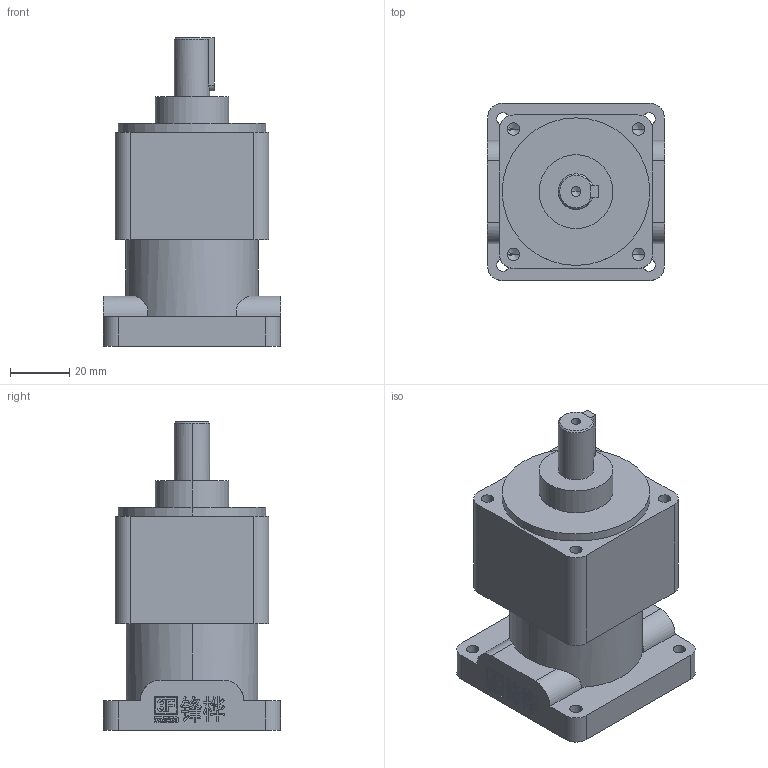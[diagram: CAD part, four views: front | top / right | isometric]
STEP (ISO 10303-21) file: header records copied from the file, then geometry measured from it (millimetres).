
FILE_DESCRIPTION (( 'STEP AP214' ), '1' );
FILE_NAME ('VRSF-60L1.STEP', '2019-09-07T05:38:59', ( '微软用户' ), ( '微软中国' ), 'SwSTEP 2.0', 'SolidWorks 2014', '' );
FILE_SCHEMA (( 'AUTOMOTIVE_DESIGN' ));
Length unit declared in the file: millimetre
Products named in the file (2): VRSF-60L1
Bounding box: 60 x 60 x 104.5 mm (x, y, z)
Volume: 178659.4 mm3; surface area: 27928.4 mm2
Topology: 2 solids, 2 shells, 713 faces, 2041 edges, 1352 vertices
Faces by surface type: plane 597, bspline 60, cylinder 44, cone 12
Entity records: 30127 total; most frequent: CARTESIAN_POINT 4966, ORIENTED_EDGE 4062, DIRECTION 3306, EDGE_CURVE 2031, LINE 1810, VECTOR 1810, VERTEX_POINT 1352, EDGE_LOOP 751
